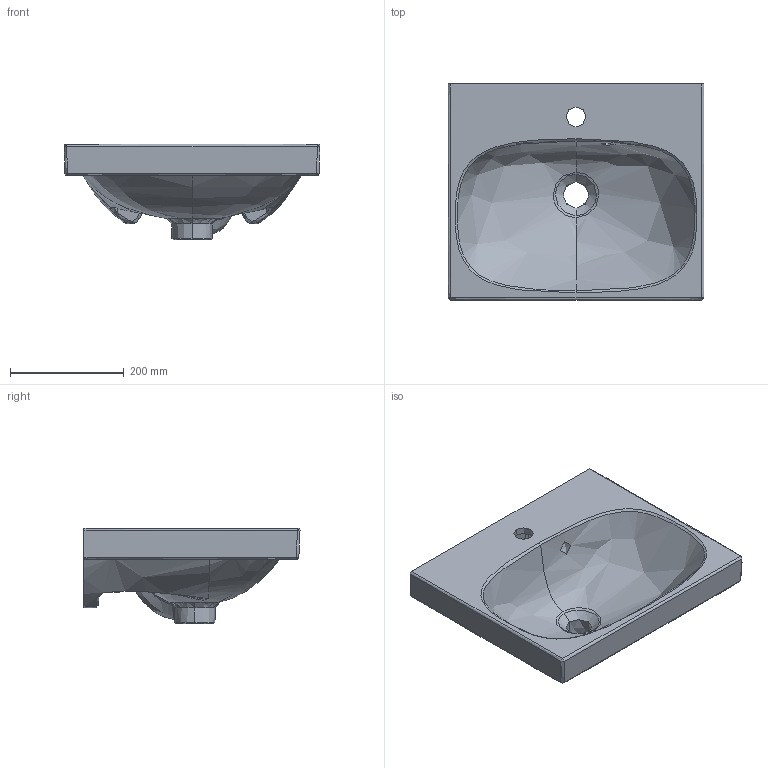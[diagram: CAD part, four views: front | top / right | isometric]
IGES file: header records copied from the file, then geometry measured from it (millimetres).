
Global section: file name: 500636; native system: Autodesk Inventor 2018; preprocessor: unknown; author: JANAN; date: 20200224.083107; units: millimetre
Bounding box: 450.06 x 380.04 x 168 mm (x, y, z)
Volume: 6207647.1 mm3; surface area: 606349.6 mm2
Topology: 1 solids, 1 shells, 231 faces, 559 edges, 330 vertices
Faces by surface type: bspline 231
